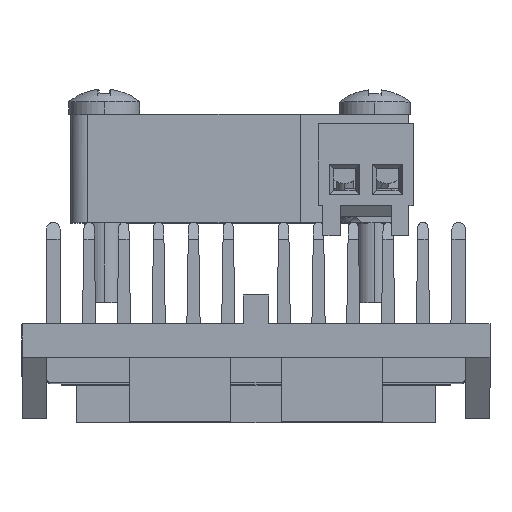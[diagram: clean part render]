
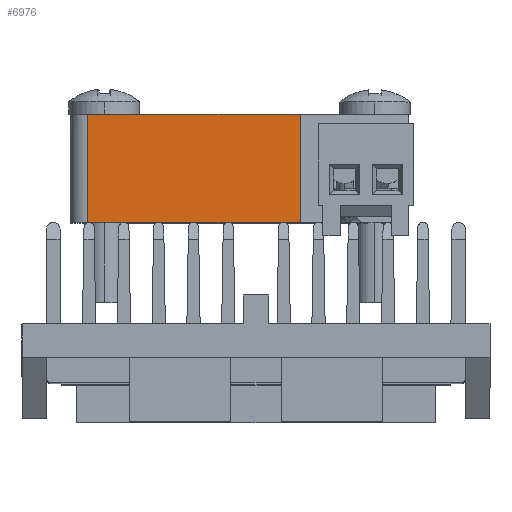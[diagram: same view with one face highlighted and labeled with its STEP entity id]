
A CAD part, top view. The second image highlights one B-rep face of the part: STEP entity #6976.
In plain terms, the highlighted planar face has unit normal (0, 0, 1).
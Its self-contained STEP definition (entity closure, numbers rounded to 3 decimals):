
#220 = CARTESIAN_POINT ( 'NONE',  ( 12.752, 12.356, 10.509 ) ) ;
#221 = AXIS2_PLACEMENT_3D ( 'NONE', #220, #8203, #14638 ) ;
#796 = CARTESIAN_POINT ( 'NONE',  ( -6.248, 5.856, 10.509 ) ) ;
#877 = EDGE_CURVE ( 'NONE', #7553, #20837, #7215, .T. ) ;
#1871 = CARTESIAN_POINT ( 'NONE',  ( -6.248, 12.356, 10.509 ) ) ;
#2433 = CARTESIAN_POINT ( 'NONE',  ( 6.352, 5.856, 10.509 ) ) ;
#3417 = VERTEX_POINT ( 'NONE', #3905 ) ;
#3701 = LINE ( 'NONE', #8398, #16890 ) ;
#3757 = ORIENTED_EDGE ( 'NONE', *, *, #8584, .F. ) ;
#3905 = CARTESIAN_POINT ( 'NONE',  ( 6.352, 12.256, 10.509 ) ) ;
#4243 = VECTOR ( 'NONE', #5272, 1000. ) ;
#4986 = FACE_OUTER_BOUND ( 'NONE', #17205, .T. ) ;
#5272 = DIRECTION ( 'NONE',  ( 0., 1., 0. ) ) ;
#5277 = DIRECTION ( 'NONE',  ( 0., -1., 0. ) ) ;
#5761 = ORIENTED_EDGE ( 'NONE', *, *, #12809, .F. ) ;
#6619 = VERTEX_POINT ( 'NONE', #13454 ) ;
#6976 = ADVANCED_FACE ( 'NONE', ( #4986 ), #16441, .F. ) ;
#7215 = LINE ( 'NONE', #13675, #7928 ) ;
#7553 = VERTEX_POINT ( 'NONE', #2433 ) ;
#7928 = VECTOR ( 'NONE', #20211, 1000. ) ;
#8203 = DIRECTION ( 'NONE',  ( 0., 0., -1. ) ) ;
#8398 = CARTESIAN_POINT ( 'NONE',  ( 6.352, 12.356, 10.509 ) ) ;
#8584 = EDGE_CURVE ( 'NONE', #3417, #7553, #3701, .T. ) ;
#8611 = ORIENTED_EDGE ( 'NONE', *, *, #877, .F. ) ;
#12809 = EDGE_CURVE ( 'NONE', #6619, #3417, #19265, .T. ) ;
#12977 = DIRECTION ( 'NONE',  ( 1., 0., 0. ) ) ;
#13454 = CARTESIAN_POINT ( 'NONE',  ( -6.248, 12.256, 10.509 ) ) ;
#13675 = CARTESIAN_POINT ( 'NONE',  ( 2.752, 5.856, 10.509 ) ) ;
#14638 = DIRECTION ( 'NONE',  ( 0., -1., 0. ) ) ;
#14805 = VECTOR ( 'NONE', #12977, 1000. ) ;
#15158 = ORIENTED_EDGE ( 'NONE', *, *, #17092, .F. ) ;
#16035 = CARTESIAN_POINT ( 'NONE',  ( 12.752, 12.256, 10.509 ) ) ;
#16441 = PLANE ( 'NONE',  #221 ) ;
#16531 = LINE ( 'NONE', #1871, #4243 ) ;
#16890 = VECTOR ( 'NONE', #5277, 1000. ) ;
#17092 = EDGE_CURVE ( 'NONE', #20837, #6619, #16531, .T. ) ;
#17205 = EDGE_LOOP ( 'NONE', ( #5761, #15158, #8611, #3757 ) ) ;
#19265 = LINE ( 'NONE', #16035, #14805 ) ;
#20211 = DIRECTION ( 'NONE',  ( -1., 0., 0. ) ) ;
#20837 = VERTEX_POINT ( 'NONE', #796 ) ;
